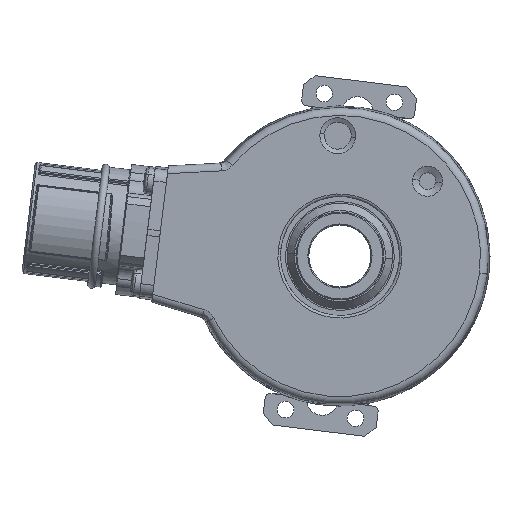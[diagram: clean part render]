
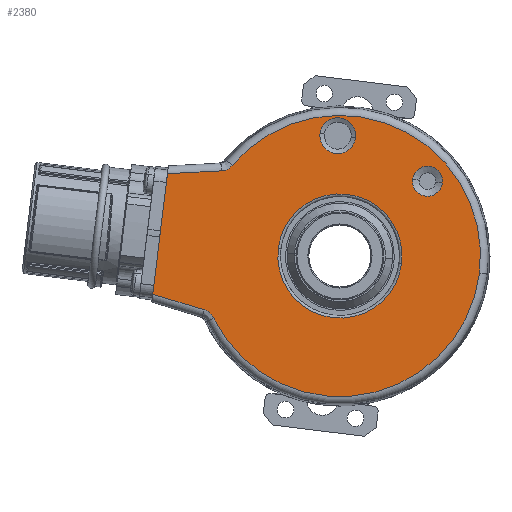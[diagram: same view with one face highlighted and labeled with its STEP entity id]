
A CAD part, left-side view. The second image highlights one B-rep face of the part: STEP entity #2380.
In plain terms, the highlighted planar face has unit normal (-1, 0, 0).
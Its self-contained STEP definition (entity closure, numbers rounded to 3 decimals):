
#2380 = ADVANCED_FACE ( 'NONE', ( #19192, #19175, #19188, #19191 ), #22860, .F. ) ;
#5080 = EDGE_CURVE ( 'NONE', #13150, #13151, #30751, .T. ) ;
#5084 = EDGE_CURVE ( 'NONE', #13154, #13155, #30760, .T. ) ;
#5213 = EDGE_CURVE ( 'NONE', #10399, #10236, #37241, .T. ) ;
#5231 = EDGE_CURVE ( 'NONE', #10411, #10413, #37274, .T. ) ;
#5312 = EDGE_CURVE ( 'NONE', #13151, #13150, #37352, .T. ) ;
#5313 = EDGE_CURVE ( 'NONE', #13155, #13154, #37350, .T. ) ;
#5314 = EDGE_CURVE ( 'NONE', #10413, #10411, #37343, .T. ) ;
#5315 = EDGE_CURVE ( 'NONE', #10485, #10236, #44361, .T. ) ;
#5316 = EDGE_CURVE ( 'NONE', #10485, #10493, #37351, .T. ) ;
#5317 = EDGE_CURVE ( 'NONE', #10487, #10493, #37355, .T. ) ;
#5318 = EDGE_CURVE ( 'NONE', #10487, #10496, #37354, .T. ) ;
#5319 = EDGE_CURVE ( 'NONE', #10492, #10496, #44269, .T. ) ;
#5320 = EDGE_CURVE ( 'NONE', #10492, #10399, #37358, .T. ) ;
#6695 = EDGE_LOOP ( 'NONE', ( #15035, #15036 ) ) ;
#6747 = EDGE_LOOP ( 'NONE', ( #15033, #15034 ) ) ;
#6789 = EDGE_LOOP ( 'NONE', ( #15039, #15040, #15041, #15042, #15043, #15044, #15045 ) ) ;
#6808 = EDGE_LOOP ( 'NONE', ( #15037, #15038 ) ) ;
#10236 = VERTEX_POINT ( 'NONE', #46502 ) ;
#10399 = VERTEX_POINT ( 'NONE', #46547 ) ;
#10411 = VERTEX_POINT ( 'NONE', #46557 ) ;
#10413 = VERTEX_POINT ( 'NONE', #46558 ) ;
#10485 = VERTEX_POINT ( 'NONE', #46614 ) ;
#10487 = VERTEX_POINT ( 'NONE', #46615 ) ;
#10492 = VERTEX_POINT ( 'NONE', #46618 ) ;
#10493 = VERTEX_POINT ( 'NONE', #46619 ) ;
#10496 = VERTEX_POINT ( 'NONE', #46621 ) ;
#13150 = VERTEX_POINT ( 'NONE', #47408 ) ;
#13151 = VERTEX_POINT ( 'NONE', #47409 ) ;
#13154 = VERTEX_POINT ( 'NONE', #47412 ) ;
#13155 = VERTEX_POINT ( 'NONE', #47413 ) ;
#15033 = ORIENTED_EDGE ( 'NONE', *, *, #5080, .T. ) ;
#15034 = ORIENTED_EDGE ( 'NONE', *, *, #5312, .T. ) ;
#15035 = ORIENTED_EDGE ( 'NONE', *, *, #5084, .T. ) ;
#15036 = ORIENTED_EDGE ( 'NONE', *, *, #5313, .T. ) ;
#15037 = ORIENTED_EDGE ( 'NONE', *, *, #5231, .T. ) ;
#15038 = ORIENTED_EDGE ( 'NONE', *, *, #5314, .T. ) ;
#15039 = ORIENTED_EDGE ( 'NONE', *, *, #5315, .F. ) ;
#15040 = ORIENTED_EDGE ( 'NONE', *, *, #5316, .T. ) ;
#15041 = ORIENTED_EDGE ( 'NONE', *, *, #5317, .F. ) ;
#15042 = ORIENTED_EDGE ( 'NONE', *, *, #5318, .T. ) ;
#15043 = ORIENTED_EDGE ( 'NONE', *, *, #5319, .F. ) ;
#15044 = ORIENTED_EDGE ( 'NONE', *, *, #5320, .T. ) ;
#15045 = ORIENTED_EDGE ( 'NONE', *, *, #5213, .T. ) ;
#19175 = FACE_BOUND ( 'NONE', #6695, .T. ) ;
#19188 = FACE_BOUND ( 'NONE', #6808, .T. ) ;
#19191 = FACE_OUTER_BOUND ( 'NONE', #6789, .T. ) ;
#19192 = FACE_BOUND ( 'NONE', #6747, .T. ) ;
#22849 = DIRECTION ( 'NONE',  ( 1., 0., 0. ) ) ;
#22857 = CARTESIAN_POINT ( 'NONE',  ( -19., 0., 0. ) ) ;
#22860 = PLANE ( 'NONE',  #25750 ) ;
#22861 = DIRECTION ( 'NONE',  ( 0., -0.993, -0.122 ) ) ;
#25750 = AXIS2_PLACEMENT_3D ( 'NONE', #22857, #22849, #22861 ) ;
#26340 = AXIS2_PLACEMENT_3D ( 'NONE', #36669, #36670, #36671 ) ;
#26342 = AXIS2_PLACEMENT_3D ( 'NONE', #36679, #36680, #36681 ) ;
#26428 = AXIS2_PLACEMENT_3D ( 'NONE', #38352, #38353, #38354 ) ;
#26436 = AXIS2_PLACEMENT_3D ( 'NONE', #38396, #38397, #38398 ) ;
#26473 = AXIS2_PLACEMENT_3D ( 'NONE', #38697, #38698, #38699 ) ;
#26474 = AXIS2_PLACEMENT_3D ( 'NONE', #38702, #38703, #38704 ) ;
#26475 = AXIS2_PLACEMENT_3D ( 'NONE', #38707, #38708, #38709 ) ;
#26476 = AXIS2_PLACEMENT_3D ( 'NONE', #38732, #38733, #38734 ) ;
#30751 = CIRCLE ( 'NONE', #26340, 2.899 ) ;
#30760 = CIRCLE ( 'NONE', #26342, 3.466 ) ;
#36669 = CARTESIAN_POINT ( 'NONE',  ( -19., -16.919, 14.45 ) ) ;
#36670 = DIRECTION ( 'NONE',  ( 1., 0., 0. ) ) ;
#36671 = DIRECTION ( 'NONE',  ( 0., -0.993, -0.122 ) ) ;
#36679 = CARTESIAN_POINT ( 'NONE',  ( -19., 0.406, 23.246 ) ) ;
#36680 = DIRECTION ( 'NONE',  ( 1., 0., 0. ) ) ;
#36681 = DIRECTION ( 'NONE',  ( 0., -0.993, -0.122 ) ) ;
#37241 = CIRCLE ( 'NONE', #26428, 27.173 ) ;
#37274 = CIRCLE ( 'NONE', #26436, 12. ) ;
#37343 = CIRCLE ( 'NONE', #26475, 12. ) ;
#37350 = CIRCLE ( 'NONE', #26474, 3.466 ) ;
#37351 = LINE ( 'NONE', #38718, #37353 ) ;
#37352 = CIRCLE ( 'NONE', #26473, 2.899 ) ;
#37353 = VECTOR ( 'NONE', #38719, 1000. ) ;
#37354 = LINE ( 'NONE', #38701, #37359 ) ;
#37355 = LINE ( 'NONE', #38720, #37357 ) ;
#37357 = VECTOR ( 'NONE', #38722, 1000. ) ;
#37358 = CIRCLE ( 'NONE', #26476, 27.173 ) ;
#37359 = VECTOR ( 'NONE', #38723, 1000. ) ;
#38352 = CARTESIAN_POINT ( 'NONE',  ( -19., 0., 0. ) ) ;
#38353 = DIRECTION ( 'NONE',  ( -1., 0., 0. ) ) ;
#38354 = DIRECTION ( 'NONE',  ( 0., -0.993, -0.122 ) ) ;
#38396 = CARTESIAN_POINT ( 'NONE',  ( -19., 0., 0. ) ) ;
#38397 = DIRECTION ( 'NONE',  ( 1., 0., 0. ) ) ;
#38398 = DIRECTION ( 'NONE',  ( 0., -0.993, -0.122 ) ) ;
#38697 = CARTESIAN_POINT ( 'NONE',  ( -19., -16.919, 14.45 ) ) ;
#38698 = DIRECTION ( 'NONE',  ( 1., 0., 0. ) ) ;
#38699 = DIRECTION ( 'NONE',  ( 0., -0.993, -0.122 ) ) ;
#38700 = CARTESIAN_POINT ( 'NONE',  ( -19., 24.597, -11.605 ) ) ;
#38701 = CARTESIAN_POINT ( 'NONE',  ( -19., 25.556, -10.618 ) ) ;
#38702 = CARTESIAN_POINT ( 'NONE',  ( -19., 0.406, 23.246 ) ) ;
#38703 = DIRECTION ( 'NONE',  ( 1., 0., 0. ) ) ;
#38704 = DIRECTION ( 'NONE',  ( 0., -0.993, -0.122 ) ) ;
#38705 = CARTESIAN_POINT ( 'NONE',  ( -19., 22.708, 16.461 ) ) ;
#38706 = CARTESIAN_POINT ( 'NONE',  ( -19., 22.503, 16.493 ) ) ;
#38707 = CARTESIAN_POINT ( 'NONE',  ( -19., 0., 0. ) ) ;
#38708 = DIRECTION ( 'NONE',  ( 1., 0., 0. ) ) ;
#38709 = DIRECTION ( 'NONE',  ( 0., -0.993, -0.122 ) ) ;
#38710 = CARTESIAN_POINT ( 'NONE',  ( -19., 22.914, 16.45 ) ) ;
#38711 = CARTESIAN_POINT ( 'NONE',  ( -19., 22.108, 16.597 ) ) ;
#38712 = CARTESIAN_POINT ( 'NONE',  ( -19., 21.917, 16.669 ) ) ;
#38713 = CARTESIAN_POINT ( 'NONE',  ( -19., 21.552, 16.851 ) ) ;
#38714 = CARTESIAN_POINT ( 'NONE',  ( -19., 21.376, 16.962 ) ) ;
#38715 = CARTESIAN_POINT ( 'NONE',  ( -19., 21.056, 17.213 ) ) ;
#38716 = CARTESIAN_POINT ( 'NONE',  ( -19., 20.91, 17.355 ) ) ;
#38717 = CARTESIAN_POINT ( 'NONE',  ( -19., 20.777, 17.512 ) ) ;
#38718 = CARTESIAN_POINT ( 'NONE',  ( -19., 33.046, 15.919 ) ) ;
#38719 = DIRECTION ( 'NONE',  ( 0., 0.999, -0.052 ) ) ;
#38720 = CARTESIAN_POINT ( 'NONE',  ( -19., 36.354, -8.886 ) ) ;
#38721 = CARTESIAN_POINT ( 'NONE',  ( -19., 24.487, -11.781 ) ) ;
#38722 = DIRECTION ( 'NONE',  ( 0., -0.122, 0.993 ) ) ;
#38723 = DIRECTION ( 'NONE',  ( 0., -0.956, -0.292 ) ) ;
#38724 = CARTESIAN_POINT ( 'NONE',  ( -19., 24.396, -11.966 ) ) ;
#38725 = CARTESIAN_POINT ( 'NONE',  ( -19., 24.848, -11.282 ) ) ;
#38726 = CARTESIAN_POINT ( 'NONE',  ( -19., 24.989, -11.135 ) ) ;
#38727 = CARTESIAN_POINT ( 'NONE',  ( -19., 25.3, -10.87 ) ) ;
#38728 = CARTESIAN_POINT ( 'NONE',  ( -19., 25.471, -10.753 ) ) ;
#38729 = CARTESIAN_POINT ( 'NONE',  ( -19., 25.828, -10.557 ) ) ;
#38730 = CARTESIAN_POINT ( 'NONE',  ( -19., 26.016, -10.478 ) ) ;
#38731 = CARTESIAN_POINT ( 'NONE',  ( -19., 26.213, -10.418 ) ) ;
#38732 = CARTESIAN_POINT ( 'NONE',  ( -19., 0., 0. ) ) ;
#38733 = DIRECTION ( 'NONE',  ( -1., 0., 0. ) ) ;
#38734 = DIRECTION ( 'NONE',  ( 0., -0.993, -0.122 ) ) ;
#44269 = B_SPLINE_CURVE_WITH_KNOTS ( 'NONE', 3,
 ( #38724, #38721, #38700, #38725, #38726, #38727, #38728, #38729, #38730, #38731 ),
 .UNSPECIFIED., .F., .F.,
 ( 4, 2, 2, 2, 4 ),
 ( 0., 0.001, 0.001, 0.002, 0.002 ),
 .UNSPECIFIED. ) ;
#44361 = B_SPLINE_CURVE_WITH_KNOTS ( 'NONE', 3,
 ( #38710, #38705, #38706, #38711, #38712, #38713, #38714, #38715, #38716, #38717 ),
 .UNSPECIFIED., .F., .F.,
 ( 4, 2, 2, 2, 4 ),
 ( 0., 0.001, 0.001, 0.002, 0.002 ),
 .UNSPECIFIED. ) ;
#46502 = CARTESIAN_POINT ( 'NONE',  ( -19., 20.777, 17.512 ) ) ;
#46547 = CARTESIAN_POINT ( 'NONE',  ( -19., -26.97, -3.312 ) ) ;
#46557 = CARTESIAN_POINT ( 'NONE',  ( -19., -11.911, -1.462 ) ) ;
#46558 = CARTESIAN_POINT ( 'NONE',  ( -19., 11.911, 1.462 ) ) ;
#46614 = CARTESIAN_POINT ( 'NONE',  ( -19., 22.914, 16.45 ) ) ;
#46615 = CARTESIAN_POINT ( 'NONE',  ( -19., 36.168, -7.374 ) ) ;
#46618 = CARTESIAN_POINT ( 'NONE',  ( -19., 24.396, -11.966 ) ) ;
#46619 = CARTESIAN_POINT ( 'NONE',  ( -19., 33.31, 15.905 ) ) ;
#46621 = CARTESIAN_POINT ( 'NONE',  ( -19., 26.213, -10.418 ) ) ;
#47408 = CARTESIAN_POINT ( 'NONE',  ( -19., -14.042, 14.804 ) ) ;
#47409 = CARTESIAN_POINT ( 'NONE',  ( -19., -19.796, 14.097 ) ) ;
#47412 = CARTESIAN_POINT ( 'NONE',  ( -19., 3.846, 23.669 ) ) ;
#47413 = CARTESIAN_POINT ( 'NONE',  ( -19., -3.034, 22.824 ) ) ;
